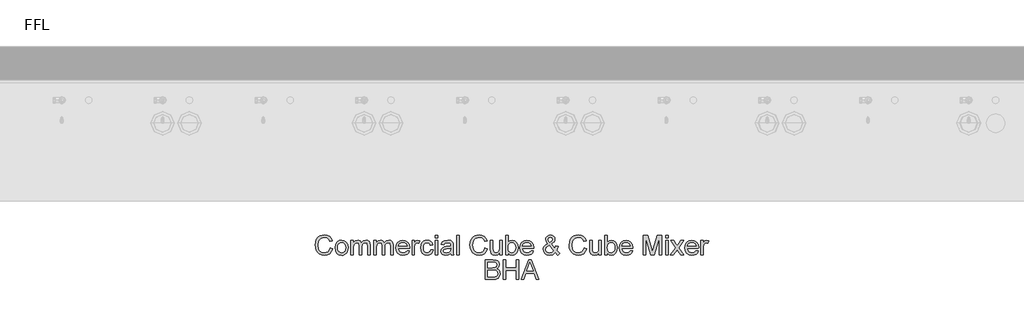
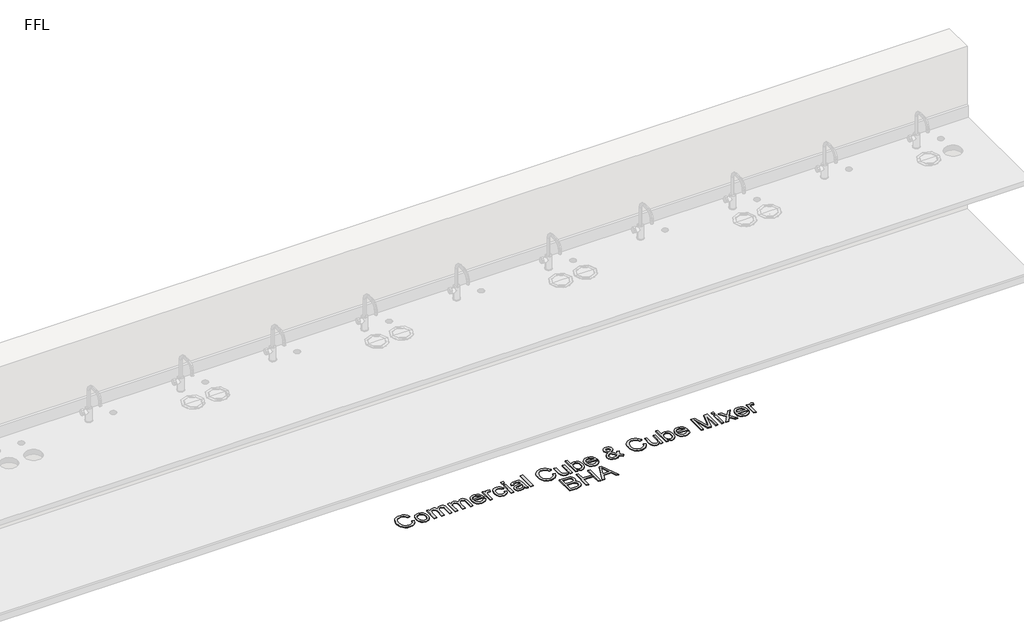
# One storey, part 10 of 14: 1 proxy.
"""IFC4 building model written with IfcOpenShell, lengths in millimetres."""

from ifc_helpers import new_model, si_unit, origin, origin_with_axes, place, context, project, spatial, polyline, outline, extrude, element, save

model = new_model("IFC4")

# Units and contexts
model_context = context("Model", 3, world=origin())
ifc_project = project(units=[si_unit("LENGTHUNIT", "METRE", prefix="MILLI")], contexts=[model_context])

# Site, building, storey
site = spatial("IfcSite", under=ifc_project)
building = spatial("IfcBuilding", under=site)
storey = spatial("IfcBuildingStorey", under=building, Name="FFL", Elevation=0.0)

# Proxy
placement = place(None, origin())
element("IfcBuildingElementProxy", 1, Name="150mm Arial", ObjectType="150mm Arial", at=placement, inside=storey, context=model_context, shape_type="SweptSolid", body=[
    extrude(outline(polyline([(6277.5723994, -4443.6981691), (6296.0339379, -4448.4577845), (6287.5153081, -4469.9707052), (6274.1469187, -4485.6873518), (6256.5868225, -4495.301234), (6235.4930725, -4498.5058614), (6214.0793105, -4496.0809816), (6197.0736014, -4488.8063422), (6184.0387456, -4476.934347), (6174.5375437, -4460.7173999), (6168.7367624, -4441.6518951), (6166.8031687, -4421.2342268), (6168.9891663, -4399.6987701), (6175.5471591, -4381.1020153), (6186.134599, -4366.0344071), (6200.4089379, -4355.0863903), (6217.3380244, -4348.4202244), (6235.8897071, -4346.1981691), (6256.1315941, -4349.0737701), (6272.8668706, -4357.700573), (6285.5726999, -4371.5467268), (6293.7262456, -4390.0803807), (6275.2647071, -4394.4794191), (6268.8644667, -4381.0163783), (6260.1204764, -4371.7811018), (6248.9245629, -4366.4400561), (6235.1685533, -4364.6597076), (6219.3121831, -4366.6338662), (6206.2863417, -4372.5563422), (6196.4020268, -4381.8051403), (6189.970236, -4393.7582653), (6185.2647071, -4421.1981691), (6190.8356206, -4453.0010537), (6197.9570148, -4464.8775561), (6208.1793706, -4473.3195633), (6220.4344788, -4478.3631331), (6233.6541302, -4480.044323), (6249.0642865, -4477.7546595), (6261.9053321, -4470.8856691), (6271.6003441, -4459.5094672), (6277.5723994, -4443.6981691)])), origin_with_axes(), (0.0, 0.0, 1.0), 5.0),
    extrude(outline(polyline([(6314.4954764, -4441.9673999), (6318.4888658, -4415.8165585), (6330.4690341, -4397.4361499), (6345.2707167, -4388.4307412), (6362.9930725, -4385.4289383), (6382.3876038, -4389.0842869), (6397.8788898, -4400.0503326), (6408.0336374, -4417.4616908), (6411.4185533, -4440.4529768), (6409.9221591, -4459.1038182), (6405.4329764, -4473.3015345), (6398.0817143, -4483.9340465), (6387.9990821, -4491.8892749), (6376.0234211, -4496.8517148), (6362.9930725, -4498.5058614), (6343.3641663, -4494.8640345), (6327.8909091, -4483.9385537), (6317.8443345, -4466.1621114), (6314.4954764, -4441.9673999)]), holes=[polyline([(6332.9570148, -4441.9313422), (6335.0934331, -4458.6395754), (6341.5026879, -4470.543121), (6351.1481206, -4477.6690225), (6362.9930725, -4480.044323), (6374.7839379, -4477.6555008), (6384.4113417, -4470.4890345), (6390.8205966, -4458.4277364), (6392.9570148, -4441.3544191), (6390.8070749, -4425.1329648), (6384.3572552, -4413.3916787), (6374.7163297, -4406.2657773), (6362.9930725, -4403.8904768), (6351.1481206, -4406.2567629), (6341.5026879, -4413.355621), (6335.0934331, -4425.2321234), (6332.9570148, -4441.9313422)])]), origin_with_axes(), (0.0, 0.0, 1.0), 5.0),
    extrude(outline(polyline([(6432.1877841, -4496.1981691), (6432.1877841, -4387.7366307), (6450.6493225, -4387.7366307), (6450.6493225, -4405.5851883), (6463.3416302, -4390.9637941), (6481.4065341, -4385.4289383), (6491.6739619, -4386.8396956), (6499.9041302, -4391.0719672), (6510.0723994, -4406.8832653), (6524.4774475, -4390.7925201), (6542.6685533, -4385.4289383), (6556.5462576, -4387.6600081), (6566.8091783, -4394.3532172), (6573.1508249, -4405.6888542), (6575.2647071, -4421.8472076), (6575.2647071, -4496.1981691), (6556.8031687, -4496.1981691), (6556.8031687, -4429.7798999), (6555.0904283, -4414.3652364), (6548.8885052, -4406.7750922), (6538.3416302, -4403.8904768), (6528.3401278, -4405.7384335), (6520.1865821, -4411.2823037), (6514.7644066, -4420.9006932), (6512.9570148, -4434.9722076), (6512.9570148, -4496.1981691), (6494.4954764, -4496.1981691), (6494.4954764, -4427.7246114), (6490.2226398, -4409.839996), (6484.5841182, -4405.3778566), (6476.2142264, -4403.8904768), (6462.548361, -4407.856823), (6453.4618225, -4419.4673999), (6450.6493225, -4441.4986499), (6450.6493225, -4496.1981691), (6432.1877841, -4496.1981691)])), origin_with_axes(), (0.0, 0.0, 1.0), 5.0),
    extrude(outline(polyline([(6602.9570148, -4496.1981691), (6602.9570148, -4387.7366307), (6621.4185533, -4387.7366307), (6621.4185533, -4405.5851883), (6634.110861, -4390.9637941), (6652.1757648, -4385.4289383), (6662.4431927, -4386.8396956), (6670.673361, -4391.0719672), (6680.8416302, -4406.8832653), (6695.2466783, -4390.7925201), (6713.4377841, -4385.4289383), (6727.3154884, -4387.6600081), (6737.5784091, -4394.3532172), (6743.9200557, -4405.6888542), (6746.0339379, -4421.8472076), (6746.0339379, -4496.1981691), (6727.5723994, -4496.1981691), (6727.5723994, -4429.7798999), (6725.8596591, -4414.3652364), (6719.657736, -4406.7750922), (6709.110861, -4403.8904768), (6699.1093586, -4405.7384335), (6690.9558129, -4411.2823037), (6685.5336374, -4420.9006932), (6683.7262456, -4434.9722076), (6683.7262456, -4496.1981691), (6665.2647071, -4496.1981691), (6665.2647071, -4427.7246114), (6660.9918706, -4409.839996), (6655.353349, -4405.3778566), (6646.9834571, -4403.8904768), (6633.3175917, -4407.856823), (6624.2310533, -4419.4673999), (6621.4185533, -4441.4986499), (6621.4185533, -4496.1981691), (6602.9570148, -4496.1981691)])), origin_with_axes(), (0.0, 0.0, 1.0), 5.0),
    extrude(outline(polyline([(6849.6637456, -4463.8904768), (6867.7647071, -4466.1981691), (6861.242772, -4479.8369912), (6850.8356206, -4490.0323037), (6836.7776278, -4496.387472), (6819.3031687, -4498.5058614), (6797.64151, -4494.8505129), (6780.9738417, -4483.8844672), (6770.3458369, -4466.3198638), (6766.8031687, -4442.8688422), (6770.3818946, -4418.6290585), (6781.1180725, -4400.5010537), (6797.5603802, -4389.1969672), (6818.2574956, -4385.4289383), (6838.3100797, -4389.1879528), (6854.3332167, -4400.464996), (6864.8395268, -4418.5569432), (6868.3416302, -4442.7606691), (6868.2334571, -4447.7366307), (6785.2647071, -4447.7366307), (6788.4603201, -4461.5557412), (6795.8836975, -4471.714996), (6806.5973393, -4477.9619912), (6819.6637456, -4480.044323), (6837.7647071, -4476.1861499), (6849.6637456, -4463.8904768)]), holes=[polyline([(6785.2647071, -4429.2750922), (6849.8800917, -4429.2750922), (6847.3830966, -4419.5214864), (6842.4882648, -4412.544323), (6831.7250437, -4406.0539383), (6818.1853802, -4403.8904768), (6805.7409691, -4405.6167388), (6795.4510052, -4410.7955249), (6788.2980605, -4418.8679408), (6785.2647071, -4429.2750922)])]), origin_with_axes(), (0.0, 0.0, 1.0), 5.0),
    extrude(outline(polyline([(6886.8031687, -4496.1981691), (6886.8031687, -4387.7366307), (6902.9570148, -4387.7366307), (6902.9570148, -4403.7823037), (6914.423361, -4388.9986499), (6925.9618225, -4385.4289383), (6944.4954764, -4391.1260537), (6938.329611, -4407.6765345), (6925.3488417, -4403.8904768), (6914.9101398, -4407.5323037), (6908.2574956, -4417.6284576), (6905.2647071, -4439.1909576), (6905.2647071, -4496.1981691), (6886.8031687, -4496.1981691)])), origin_with_axes(), (0.0, 0.0, 1.0), 5.0),
    extrude(outline(polyline([(7025.2647071, -4456.9673999), (7043.7262456, -4459.2750922), (7038.57901, -4475.6948638), (7028.9065341, -4488.1032172), (7015.6192744, -4495.9052004), (6999.6276879, -4498.5058614), (6979.9897672, -4494.8775561), (6964.6336975, -4483.9926403), (6954.7223393, -4466.3288783), (6951.4185533, -4442.3640345), (6957.0615821, -4411.6969672), (6964.1829764, -4400.1990706), (6974.2611014, -4391.9914383), (6986.3178922, -4387.0695633), (6999.3752841, -4385.4289383), (7014.9747432, -4387.6825441), (7027.4461975, -4394.4433614), (7036.3930124, -4405.3508133), (7041.4185533, -4420.044323), (7022.9570148, -4422.3520153), (7014.3933129, -4408.5238903), (6999.5195148, -4403.8904768), (6987.5889259, -4406.1711258), (6978.1192744, -4413.013073), (6971.9398874, -4424.7859095), (6969.8800917, -4441.8592268), (6971.8948153, -4459.1624119), (6977.938986, -4470.9758133), (6987.2373634, -4477.7771956), (6999.0147071, -4480.044323), (7008.5745028, -4478.6290585), (7016.4125437, -4474.3832653), (7022.1141663, -4467.1987701), (7025.2647071, -4456.9673999)])), origin_with_axes(), (0.0, 0.0, 1.0), 5.0),
    extrude(outline(polyline([(7059.8800917, -4366.9673999), (7059.8800917, -4348.5058614), (7078.3416302, -4348.5058614), (7078.3416302, -4366.9673999), (7059.8800917, -4366.9673999)])), origin_with_axes(), (0.0, 0.0, 1.0), 5.0),
    extrude(outline(polyline([(7059.8800917, -4496.1981691), (7059.8800917, -4387.7366307), (7078.3416302, -4387.7366307), (7078.3416302, -4496.1981691), (7059.8800917, -4496.1981691)])), origin_with_axes(), (0.0, 0.0, 1.0), 5.0),
    extrude(outline(polyline([(7175.2647071, -4482.3520153), (7157.3620629, -4494.8640345), (7137.5844187, -4498.5058614), (7122.1562336, -4496.3153566), (7110.7755244, -4489.7438422), (7103.7577961, -4479.7648758), (7101.4185533, -4467.3520153), (7104.9522071, -4452.7486499), (7114.2370629, -4442.1476883), (7127.1637456, -4436.089996), (7143.1373033, -4433.3135537), (7175.1565341, -4426.9673999), (7175.2647071, -4422.856823), (7173.9936735, -4414.6176403), (7170.1805725, -4409.2270153), (7161.6529283, -4405.2246114), (7149.7719187, -4403.8904768), (7131.0940341, -4407.4421595), (7122.1877841, -4420.044323), (7103.7262456, -4417.7366307), (7111.7130244, -4399.7077845), (7127.7947552, -4389.1428807), (7152.1517264, -4385.4289383), (7174.5255244, -4388.7101883), (7187.1637456, -4396.949371), (7192.8248033, -4409.4794191), (7193.7262456, -4425.6332653), (7193.7262456, -4448.6020153), (7194.6637456, -4480.6753326), (7198.3416302, -4496.1981691), (7179.8800917, -4496.1981691), (7175.2647071, -4482.3520153)]), holes=[polyline([(7175.2647071, -4445.4289383), (7145.4810533, -4451.089996), (7129.5976398, -4454.0827845), (7122.4041302, -4458.950573), (7119.8800917, -4466.0539383), (7125.3788898, -4476.0419191), (7141.5147071, -4480.044323), (7160.1925917, -4475.6272557), (7172.235861, -4464.9361499), (7175.1565341, -4450.6573037), (7175.2647071, -4445.4289383)])]), origin_with_axes(), (0.0, 0.0, 1.0), 5.0),
    extrude(outline(polyline([(7219.110861, -4496.1981691), (7219.110861, -4348.5058614), (7237.5723994, -4348.5058614), (7237.5723994, -4496.1981691), (7219.110861, -4496.1981691)])), origin_with_axes(), (0.0, 0.0, 1.0), 5.0),
    extrude(outline(polyline([(7429.110861, -4443.6981691), (7447.5723994, -4448.4577845), (7439.0537696, -4469.9707052), (7425.6853802, -4485.6873518), (7408.1252841, -4495.301234), (7387.0315341, -4498.5058614), (7365.617772, -4496.0809816), (7348.6120629, -4488.8063422), (7335.5772071, -4476.934347), (7326.0760052, -4460.7173999), (7320.275224, -4441.6518951), (7318.3416302, -4421.2342268), (7320.5276278, -4399.6987701), (7327.0856206, -4381.1020153), (7337.6730605, -4366.0344071), (7351.9473994, -4355.0863903), (7368.876486, -4348.4202244), (7387.4281687, -4346.1981691), (7407.6700557, -4349.0737701), (7424.4053321, -4357.700573), (7437.1111615, -4371.5467268), (7445.2647071, -4390.0803807), (7426.8031687, -4394.4794191), (7420.4029283, -4381.0163783), (7411.6589379, -4371.7811018), (7400.4630244, -4366.4400561), (7386.7070148, -4364.6597076), (7370.8506446, -4366.6338662), (7357.8248033, -4372.5563422), (7347.9404884, -4381.8051403), (7341.5086975, -4393.7582653), (7336.8031687, -4421.1981691), (7342.3740821, -4453.0010537), (7349.4954764, -4464.8775561), (7359.7178321, -4473.3195633), (7371.9729403, -4478.3631331), (7385.1925917, -4480.044323), (7400.602748, -4477.7546595), (7413.4437937, -4470.8856691), (7423.1388057, -4459.5094672), (7429.110861, -4443.6981691)])), origin_with_axes(), (0.0, 0.0, 1.0), 5.0),
    extrude(outline(polyline([(7539.8800917, -4496.1981691), (7539.8800917, -4477.5563422), (7525.4209571, -4493.2684816), (7506.5627841, -4498.5058614), (7489.2010052, -4494.8279768), (7477.2298514, -4485.5972076), (7471.7310533, -4472.0034576), (7470.6493225, -4454.839996), (7470.6493225, -4387.7366307), (7489.110861, -4387.7366307), (7489.110861, -4446.1500922), (7490.2286494, -4464.9722076), (7497.5303321, -4476.0238903), (7511.2863417, -4480.044323), (7526.7010052, -4475.933746), (7536.8873033, -4464.7378326), (7539.8800917, -4444.1669191), (7539.8800917, -4387.7366307), (7558.3416302, -4387.7366307), (7558.3416302, -4496.1981691), (7539.8800917, -4496.1981691)])), origin_with_axes(), (0.0, 0.0, 1.0), 5.0),
    extrude(outline(polyline([(7602.1877841, -4496.1981691), (7583.7262456, -4496.1981691), (7583.7262456, -4348.5058614), (7602.1877841, -4348.5058614), (7602.1877841, -4403.277496), (7615.1144667, -4389.8910778), (7631.1781687, -4385.4289383), (7649.6757648, -4389.449371), (7664.0267264, -4400.7534576), (7672.8428321, -4418.3315826), (7676.0339379, -4440.3448037), (7672.7301518, -4464.9902364), (7662.8187937, -4483.325573), (7648.274022, -4494.7107893), (7631.0699956, -4498.5058614), (7614.6547312, -4493.6110297), (7602.1877841, -4478.9265345), (7602.1877841, -4496.1981691)]), holes=[polyline([(7602.1877841, -4441.2101883), (7603.4498033, -4456.606823), (7607.235861, -4467.027496), (7616.9083369, -4476.7901162), (7629.4834571, -4480.044323), (7640.1385052, -4477.6464864), (7649.2430725, -4470.4529768), (7655.4900677, -4458.5088662), (7657.5723994, -4441.8592268), (7655.5757047, -4424.966198), (7649.5856206, -4413.1573037), (7640.7650076, -4406.2071835), (7630.2767264, -4403.8904768), (7619.6216783, -4406.2883133), (7610.517111, -4413.481823), (7604.2701158, -4425.2095874), (7602.1877841, -4441.2101883)])]), origin_with_axes(), (0.0, 0.0, 1.0), 5.0),
    extrude(outline(polyline([(7772.7406687, -4463.8904768), (7790.8416302, -4466.1981691), (7784.3196951, -4479.8369912), (7773.9125437, -4490.0323037), (7759.8545509, -4496.387472), (7742.3800917, -4498.5058614), (7720.7184331, -4494.8505129), (7704.0507648, -4483.8844672), (7693.42276, -4466.3198638), (7689.8800917, -4442.8688422), (7693.4588177, -4418.6290585), (7704.1949956, -4400.5010537), (7720.6373033, -4389.1969672), (7741.3344187, -4385.4289383), (7761.3870028, -4389.1879528), (7777.4101398, -4400.464996), (7787.9164499, -4418.5569432), (7791.4185533, -4442.7606691), (7791.3103802, -4447.7366307), (7708.3416302, -4447.7366307), (7711.5372432, -4461.5557412), (7718.9606206, -4471.714996), (7729.6742624, -4477.9619912), (7742.7406687, -4480.044323), (7760.8416302, -4476.1861499), (7772.7406687, -4463.8904768)]), holes=[polyline([(7708.3416302, -4429.2750922), (7772.9570148, -4429.2750922), (7770.4600196, -4419.5214864), (7765.5651879, -4412.544323), (7754.8019667, -4406.0539383), (7741.2623033, -4403.8904768), (7728.8178922, -4405.6167388), (7718.5279283, -4410.7955249), (7711.3749836, -4418.8679408), (7708.3416302, -4429.2750922)])]), origin_with_axes(), (0.0, 0.0, 1.0), 5.0),
    extrude(outline(polyline([(7952.2719187, -4477.9529768), (7932.6925917, -4493.3676403), (7909.7959571, -4498.5058614), (7889.423361, -4494.7017749), (7873.7382648, -4483.2895153), (7865.6523273, -4470.1555008), (7862.9570148, -4455.5611499), (7865.1249836, -4442.6254528), (7871.6288898, -4431.0058614), (7882.4416903, -4420.7113903), (7897.5363417, -4411.7510537), (7884.6457167, -4393.0731691), (7881.4185533, -4379.2270153), (7883.9606206, -4366.7600682), (7891.5868225, -4356.0419191), (7903.0621831, -4348.6591066), (7917.1517264, -4346.1981691), (7930.5561735, -4348.5509335), (7941.2743225, -4355.6092268), (7948.3055725, -4365.9667989), (7950.6493225, -4378.2173999), (7948.9140461, -4388.5028566), (7943.7082167, -4398.013073), (7922.8848994, -4414.7077845), (7949.6036494, -4447.9890345), (7957.5723994, -4427.544323), (7976.0339379, -4431.5467268), (7962.9810533, -4461.9433614), (7985.2647071, -4484.2991307), (7971.4185533, -4498.5058614), (7952.2719187, -4477.9529768)]), holes=[polyline([(7913.5459571, -4403.0611499), (7928.7262456, -4391.6128326), (7932.1877841, -4380.7414383), (7927.626486, -4369.1488903), (7916.2142264, -4364.6597076), (7904.5495629, -4369.1128326), (7899.8800917, -4379.9842268), (7901.4666302, -4386.7450441), (7906.2623033, -4394.263073), (7913.5459571, -4403.0611499)]), polyline([(7939.9041302, -4464.6476883), (7906.9473994, -4423.5058614), (7886.6649475, -4438.9746114), (7881.4185533, -4453.1092268), (7883.2124235, -4461.8171595), (7888.5940341, -4470.8496114), (7897.2659091, -4477.7456451), (7908.9305725, -4480.044323), (7925.8957167, -4475.7534576), (7939.9041302, -4464.6476883)])]), origin_with_axes(), (0.0, 0.0, 1.0), 5.0),
    extrude(outline(polyline([(8167.5723994, -4443.6981691), (8186.0339379, -4448.4577845), (8177.5153081, -4469.9707052), (8164.1469187, -4485.6873518), (8146.5868225, -4495.301234), (8125.4930725, -4498.5058614), (8104.0793105, -4496.0809816), (8087.0736014, -4488.8063422), (8074.0387456, -4476.934347), (8064.5375437, -4460.7173999), (8058.7367624, -4441.6518951), (8056.8031687, -4421.2342268), (8058.9891663, -4399.6987701), (8065.5471591, -4381.1020153), (8076.134599, -4366.0344071), (8090.4089379, -4355.0863903), (8107.3380244, -4348.4202244), (8125.8897071, -4346.1981691), (8146.1315941, -4349.0737701), (8162.8668706, -4357.700573), (8175.5726999, -4371.5467268), (8183.7262456, -4390.0803807), (8165.2647071, -4394.4794191), (8158.8644667, -4381.0163783), (8150.1204764, -4371.7811018), (8138.9245629, -4366.4400561), (8125.1685533, -4364.6597076), (8109.3121831, -4366.6338662), (8096.2863417, -4372.5563422), (8086.4020268, -4381.8051403), (8079.970236, -4393.7582653), (8075.2647071, -4421.1981691), (8080.8356206, -4453.0010537), (8087.9570148, -4464.8775561), (8098.1793706, -4473.3195633), (8110.4344788, -4478.3631331), (8123.6541302, -4480.044323), (8139.0642865, -4477.7546595), (8151.9053321, -4470.8856691), (8161.6003441, -4459.5094672), (8167.5723994, -4443.6981691)])), origin_with_axes(), (0.0, 0.0, 1.0), 5.0),
    extrude(outline(polyline([(8278.3416302, -4496.1981691), (8278.3416302, -4477.5563422), (8263.8824956, -4493.2684816), (8245.0243225, -4498.5058614), (8227.6625437, -4494.8279768), (8215.6913898, -4485.5972076), (8210.1925917, -4472.0034576), (8209.110861, -4454.839996), (8209.110861, -4387.7366307), (8227.5723994, -4387.7366307), (8227.5723994, -4446.1500922), (8228.6901879, -4464.9722076), (8235.9918706, -4476.0238903), (8249.7478802, -4480.044323), (8265.1625437, -4475.933746), (8275.3488417, -4464.7378326), (8278.3416302, -4444.1669191), (8278.3416302, -4387.7366307), (8296.8031687, -4387.7366307), (8296.8031687, -4496.1981691), (8278.3416302, -4496.1981691)])), origin_with_axes(), (0.0, 0.0, 1.0), 5.0),
    extrude(outline(polyline([(8340.6493225, -4496.1981691), (8322.1877841, -4496.1981691), (8322.1877841, -4348.5058614), (8340.6493225, -4348.5058614), (8340.6493225, -4403.277496), (8353.5760052, -4389.8910778), (8369.6397071, -4385.4289383), (8388.1373033, -4389.449371), (8402.4882648, -4400.7534576), (8411.3043706, -4418.3315826), (8414.4954764, -4440.3448037), (8411.1916903, -4464.9902364), (8401.2803321, -4483.325573), (8386.7355605, -4494.7107893), (8369.5315341, -4498.5058614), (8353.1162696, -4493.6110297), (8340.6493225, -4478.9265345), (8340.6493225, -4496.1981691)]), holes=[polyline([(8340.6493225, -4441.2101883), (8341.9113417, -4456.606823), (8345.6973994, -4467.027496), (8355.3698754, -4476.7901162), (8367.9449956, -4480.044323), (8378.6000437, -4477.6464864), (8387.704611, -4470.4529768), (8393.9516062, -4458.5088662), (8396.0339379, -4441.8592268), (8394.0372432, -4424.966198), (8388.0471591, -4413.1573037), (8379.2265461, -4406.2071835), (8368.7382648, -4403.8904768), (8358.0832167, -4406.2883133), (8348.9786494, -4413.481823), (8342.7316542, -4425.2095874), (8340.6493225, -4441.2101883)])]), origin_with_axes(), (0.0, 0.0, 1.0), 5.0),
    extrude(outline(polyline([(8511.2022071, -4463.8904768), (8529.3031687, -4466.1981691), (8522.7812336, -4479.8369912), (8512.3740821, -4490.0323037), (8498.3160893, -4496.387472), (8480.8416302, -4498.5058614), (8459.1799716, -4494.8505129), (8442.5123033, -4483.8844672), (8431.8842985, -4466.3198638), (8428.3416302, -4442.8688422), (8431.9203562, -4418.6290585), (8442.6565341, -4400.5010537), (8459.0988417, -4389.1969672), (8479.7959571, -4385.4289383), (8499.8485413, -4389.1879528), (8515.8716783, -4400.464996), (8526.3779884, -4418.5569432), (8529.8800917, -4442.7606691), (8529.7719187, -4447.7366307), (8446.8031687, -4447.7366307), (8449.9987816, -4461.5557412), (8457.4221591, -4471.714996), (8468.1358009, -4477.9619912), (8481.2022071, -4480.044323), (8499.3031687, -4476.1861499), (8511.2022071, -4463.8904768)]), holes=[polyline([(8446.8031687, -4429.2750922), (8511.4185533, -4429.2750922), (8508.9215581, -4419.5214864), (8504.0267264, -4412.544323), (8493.2635052, -4406.0539383), (8479.7238417, -4403.8904768), (8467.2794307, -4405.6167388), (8456.9894667, -4410.7955249), (8449.836522, -4418.8679408), (8446.8031687, -4429.2750922)])]), origin_with_axes(), (0.0, 0.0, 1.0), 5.0),
    extrude(outline(polyline([(8608.3416302, -4496.1981691), (8608.3416302, -4348.5058614), (8640.1084571, -4348.5058614), (8670.3248033, -4452.6044191), (8676.4185533, -4474.3472076), (8683.017111, -4450.8015345), (8712.7286494, -4348.5058614), (8744.4954764, -4348.5058614), (8744.4954764, -4496.1981691), (8726.0339379, -4496.1981691), (8726.0339379, -4366.9673999), (8688.9305725, -4496.1981691), (8663.9065341, -4496.1981691), (8626.8031687, -4366.9673999), (8626.8031687, -4496.1981691), (8608.3416302, -4496.1981691)])), origin_with_axes(), (0.0, 0.0, 1.0), 5.0),
    extrude(outline(polyline([(8774.4954764, -4496.1981691), (8774.4954764, -4387.7366307), (8792.9570148, -4387.7366307), (8792.9570148, -4496.1981691), (8774.4954764, -4496.1981691)])), origin_with_axes(), (0.0, 0.0, 1.0), 5.0),
    extrude(outline(polyline([(8774.4954764, -4366.9673999), (8774.4954764, -4348.5058614), (8792.9570148, -4348.5058614), (8792.9570148, -4366.9673999), (8774.4954764, -4366.9673999)])), origin_with_axes(), (0.0, 0.0, 1.0), 5.0),
    extrude(outline(polyline([(8809.110861, -4496.1981691), (8848.5579764, -4441.6789383), (8811.4185533, -4387.7366307), (8833.6300917, -4387.7366307), (8851.5507648, -4413.6981691), (8859.9161494, -4425.9577845), (8867.1637456, -4415.933746), (8887.5723994, -4387.7366307), (8909.7839379, -4387.7366307), (8870.7695148, -4441.6789383), (8908.3416302, -4496.1981691), (8886.1300917, -4496.1981691), (8863.5219187, -4463.4217268), (8859.3752841, -4457.4361499), (8831.3223994, -4496.1981691), (8809.110861, -4496.1981691)])), origin_with_axes(), (0.0, 0.0, 1.0), 5.0),
    extrude(outline(polyline([(9000.4329764, -4463.8904768), (9018.5339379, -4466.1981691), (9012.0120028, -4479.8369912), (9001.6048514, -4490.0323037), (8987.5468586, -4496.387472), (8970.0723994, -4498.5058614), (8948.4107408, -4494.8505129), (8931.7430725, -4483.8844672), (8921.1150677, -4466.3198638), (8917.5723994, -4442.8688422), (8921.1511254, -4418.6290585), (8931.8873033, -4400.5010537), (8948.329611, -4389.1969672), (8969.0267264, -4385.4289383), (8989.0793105, -4389.1879528), (9005.1024475, -4400.464996), (9015.6087576, -4418.5569432), (9019.110861, -4442.7606691), (9019.0026879, -4447.7366307), (8936.0339379, -4447.7366307), (8939.2295509, -4461.5557412), (8946.6529283, -4471.714996), (8957.3665701, -4477.9619912), (8970.4329764, -4480.044323), (8988.5339379, -4476.1861499), (9000.4329764, -4463.8904768)]), holes=[polyline([(8936.0339379, -4429.2750922), (9000.6493225, -4429.2750922), (8998.1523273, -4419.5214864), (8993.2574956, -4412.544323), (8982.4942744, -4406.0539383), (8968.954611, -4403.8904768), (8956.5101999, -4405.6167388), (8946.220236, -4410.7955249), (8939.0672913, -4418.8679408), (8936.0339379, -4429.2750922)])]), origin_with_axes(), (0.0, 0.0, 1.0), 5.0),
    extrude(outline(polyline([(9037.5723994, -4496.1981691), (9037.5723994, -4387.7366307), (9053.7262456, -4387.7366307), (9053.7262456, -4403.7823037), (9065.1925917, -4388.9986499), (9076.7310533, -4385.4289383), (9095.2647071, -4391.1260537), (9089.0988417, -4407.6765345), (9076.1180725, -4403.8904768), (9065.6793706, -4407.5323037), (9059.0267264, -4417.6284576), (9056.0339379, -4439.1909576), (9056.0339379, -4496.1981691), (9037.5723994, -4496.1981691)])), origin_with_axes(), (0.0, 0.0, 1.0), 5.0),
    extrude(outline(polyline([(7431.4185533, -4678.5058614), (7431.4185533, -4530.8135537), (7487.7767264, -4530.8135537), (7515.3788898, -4535.1585057), (7524.6547312, -4540.6708254), (7531.6769667, -4548.5178807), (7537.5723994, -4567.4121114), (7532.6144667, -4584.6657172), (7517.6324956, -4597.7366307), (7528.0937336, -4603.199371), (7535.8236014, -4611.5106691), (7540.5967384, -4622.1206451), (7542.1877841, -4634.4794191), (7537.8428321, -4654.3291787), (7527.079611, -4668.4637941), (7511.0159091, -4675.9637941), (7487.3440341, -4678.5058614), (7431.4185533, -4678.5058614)]), holes=[polyline([(7449.8800917, -4590.8135537), (7483.5940341, -4590.8135537), (7503.2815341, -4589.2270153), (7515.126486, -4582.3940826), (7519.110861, -4570.3688422), (7515.3969187, -4558.325573), (7504.7598994, -4551.2041787), (7481.0339379, -4549.2750922), (7449.8800917, -4549.2750922), (7449.8800917, -4590.8135537)]), polyline([(7449.8800917, -4660.044323), (7487.7406687, -4660.044323), (7501.4425917, -4659.3231691), (7513.0351398, -4655.3027364), (7520.7154283, -4647.0996114), (7523.7262456, -4634.6597076), (7520.1925917, -4620.308746), (7508.7442744, -4611.7450441), (7485.9377841, -4609.2750922), (7449.8800917, -4609.2750922), (7449.8800917, -4660.044323)])]), origin_with_axes(), (0.0, 0.0, 1.0), 5.0),
    extrude(outline(polyline([(7567.5723994, -4678.5058614), (7567.5723994, -4530.8135537), (7586.0339379, -4530.8135537), (7586.0339379, -4590.8135537), (7664.4954764, -4590.8135537), (7664.4954764, -4530.8135537), (7682.9570148, -4530.8135537), (7682.9570148, -4678.5058614), (7664.4954764, -4678.5058614), (7664.4954764, -4609.2750922), (7586.0339379, -4609.2750922), (7586.0339379, -4678.5058614), (7567.5723994, -4678.5058614)])), origin_with_axes(), (0.0, 0.0, 1.0), 5.0),
    extrude(outline(polyline([(7698.0651879, -4678.5058614), (7757.0195148, -4530.8135537), (7772.7406687, -4530.8135537), (7831.6949956, -4678.5058614), (7812.1877841, -4678.5058614), (7795.2767264, -4632.3520153), (7734.4473994, -4632.3520153), (7717.5723994, -4678.5058614), (7698.0651879, -4678.5058614)]), holes=[polyline([(7741.2262456, -4613.8904768), (7788.5339379, -4613.8904768), (7775.2286494, -4577.5803807), (7764.8800917, -4549.2750922), (7755.6853802, -4574.4073037), (7741.2262456, -4613.8904768)])]), origin_with_axes(), (0.0, 0.0, 1.0), 5.0),
])

save(model, "model.ifc")
